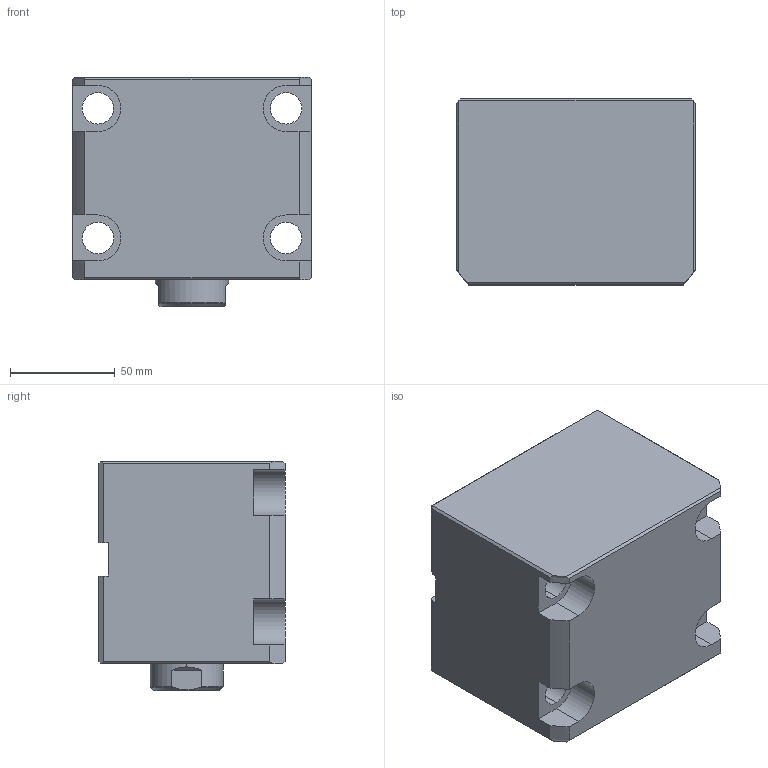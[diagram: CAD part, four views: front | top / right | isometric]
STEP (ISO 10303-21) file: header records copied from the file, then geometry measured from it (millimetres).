
FILE_DESCRIPTION (( 'STEP AP214' ), '1' );
FILE_NAME ('chtb-lam63x30n_asm.STEP', '2018-05-22T02:54:34', ( 'Windows' ), ( 'Microsoft' ), 'SwSTEP 2.0', 'SolidWorks 2015', '' );
FILE_SCHEMA (( 'AUTOMOTIVE_DESIGN' ));
Length unit declared in the file: millimetre
Products named in the file (4): CHTB-LAM63X30NBT; CHTB63X30NHSG; CHTB-63QG; chtb-lam63x30n_asm
Assembly tree (3 placements, depth 2):
  chtb-lam63x30n_asm
    CHTB-63QG
    CHTB63X30NHSG
    CHTB-LAM63X30NBT
Bounding box: 114 x 89 x 110 mm (x, y, z)
Volume: 831019 mm3; surface area: 131644.2 mm2
Topology: 3 solids, 3 shells, 176 faces, 524 edges, 356 vertices
Faces by surface type: cylinder 96, plane 51, bspline 13, cone 8, torus 8
Entity records: 18805 total; most frequent: CARTESIAN_POINT 14319, ORIENTED_EDGE 1036, DIRECTION 751, EDGE_CURVE 518, VERTEX_POINT 356, AXIS2_PLACEMENT_3D 277, EDGE_LOOP 198, LINE 197
